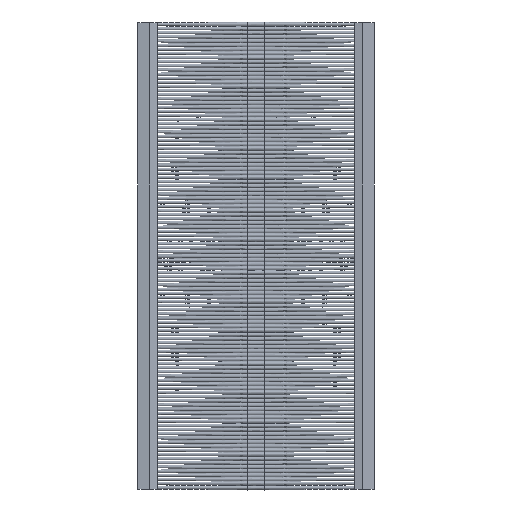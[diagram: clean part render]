
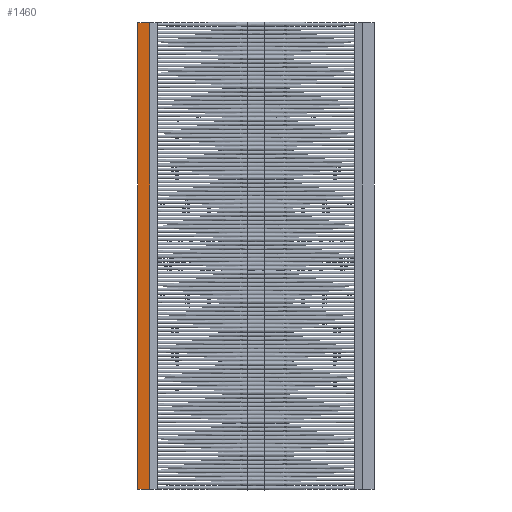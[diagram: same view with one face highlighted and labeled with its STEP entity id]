
A CAD part, front view. The second image highlights one B-rep face of the part: STEP entity #1460.
In plain terms, the highlighted planar face has unit normal (-0.09, -0.996, 0) as drawn and (0, -0.091, 0.996) by its records, which use the part's own axes.
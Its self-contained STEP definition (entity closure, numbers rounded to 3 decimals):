
#1434 = VERTEX_POINT('',#1435);
#1435 = CARTESIAN_POINT('',(-217.,-7.,4.75));
#1441 = EDGE_CURVE('',#1442,#1434,#1444,.T.);
#1442 = VERTEX_POINT('',#1443);
#1443 = CARTESIAN_POINT('',(217.,-7.,4.75));
#1444 = LINE('',#1445,#1446);
#1445 = CARTESIAN_POINT('',(217.,-7.,4.75));
#1446 = VECTOR('',#1447,1.);
#1447 = DIRECTION('',(-1.,-0.,-0.));
#1460 = ADVANCED_FACE('',(#1461),#1486,.F.);
#1461 = FACE_BOUND('',#1462,.T.);
#1462 = EDGE_LOOP('',(#1463,#1471,#1479,#1485));
#1463 = ORIENTED_EDGE('',*,*,#1464,.T.);
#1464 = EDGE_CURVE('',#1434,#1465,#1467,.T.);
#1465 = VERTEX_POINT('',#1466);
#1466 = CARTESIAN_POINT('',(-217.,-18.,3.75));
#1467 = LINE('',#1468,#1469);
#1468 = CARTESIAN_POINT('',(-217.,-7.349,4.718));
#1469 = VECTOR('',#1470,1.);
#1470 = DIRECTION('',(0.,-0.996,-0.091));
#1471 = ORIENTED_EDGE('',*,*,#1472,.F.);
#1472 = EDGE_CURVE('',#1473,#1465,#1475,.T.);
#1473 = VERTEX_POINT('',#1474);
#1474 = CARTESIAN_POINT('',(217.,-18.,3.75));
#1475 = LINE('',#1476,#1477);
#1476 = CARTESIAN_POINT('',(217.,-18.,3.75));
#1477 = VECTOR('',#1478,1.);
#1478 = DIRECTION('',(-1.,-0.,-0.));
#1479 = ORIENTED_EDGE('',*,*,#1480,.F.);
#1480 = EDGE_CURVE('',#1442,#1473,#1481,.T.);
#1481 = LINE('',#1482,#1483);
#1482 = CARTESIAN_POINT('',(217.,-7.349,4.718));
#1483 = VECTOR('',#1484,1.);
#1484 = DIRECTION('',(0.,-0.996,-0.091));
#1485 = ORIENTED_EDGE('',*,*,#1441,.T.);
#1486 = PLANE('',#1487);
#1487 = AXIS2_PLACEMENT_3D('',#1488,#1489,#1490);
#1488 = CARTESIAN_POINT('',(217.,-7.349,4.718));
#1489 = DIRECTION('',(0.,0.091,-0.996));
#1490 = DIRECTION('',(0.,0.996,0.091));
